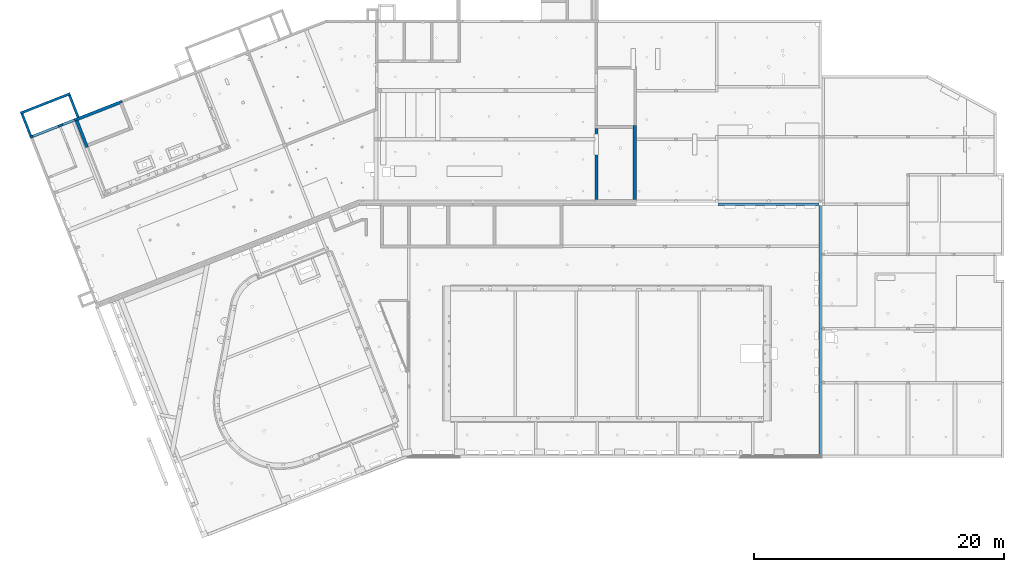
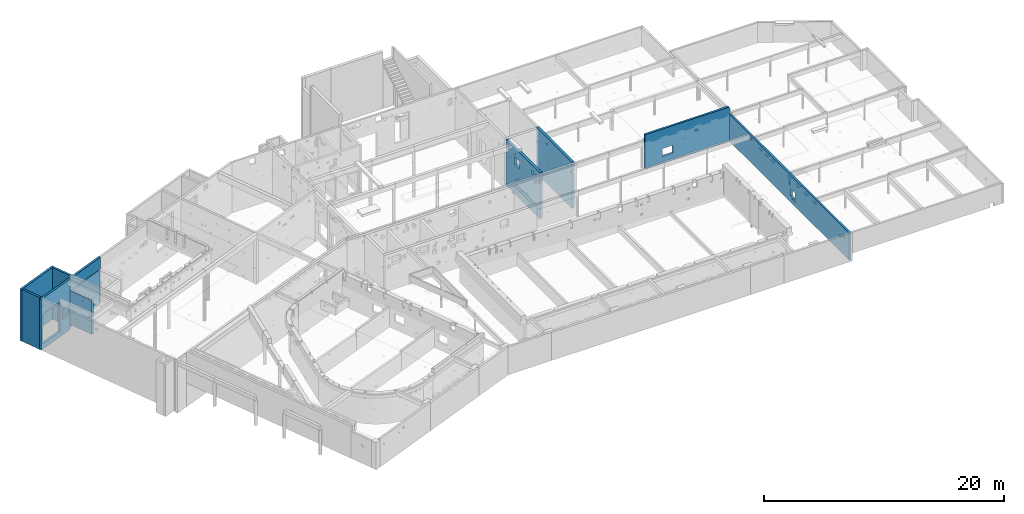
# One storey, part 22 of 28: 10 walls, 22 openings.
"""IFC2X3 building model written with IfcOpenShell, lengths in metres."""

from ifc_helpers import new_model, entity, si_unit, converted_unit, direction, frame, frame_2d, origin, origin_with_axes, place, context, subcontext, project, spatial, polyline, rectangle, outline, extrude, clip, bounded_halfspace, material, layer, layer_set, layer_usage, element, save


model = new_model("IFC2X3")

# Units and contexts
model_context = context("Model", 3, precision=1e-05, world=origin(), true_north=direction((-0.407059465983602, -0.913401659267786)))
body_context = subcontext(model_context, "Body", "Model", "MODEL_VIEW")
ifc_project = project(units=[si_unit("LENGTHUNIT", "METRE"), si_unit("AREAUNIT", "SQUARE_METRE"), si_unit("VOLUMEUNIT", "CUBIC_METRE"), si_unit("MASSUNIT", "GRAM", prefix="KILO"), converted_unit("PLANEANGLEUNIT", "DEGREE", entity("IfcPlaneAngleMeasure", 0.0174532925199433), si_unit("PLANEANGLEUNIT", "RADIAN"), dimensions=[0, 0, 0, 0, 0, 0, 0])], contexts=[model_context])

# Site, buildings, storey
site_placement = place(None, origin())
site = spatial("IfcSite", under=ifc_project, at=site_placement, Name="Site", CompositionType="ELEMENT")
building_1_placement = place(site_placement, origin())
building_1 = spatial("IfcBuilding", under=site, at=building_1_placement, Name="Site", CompositionType="COMPLEX")
building_2_placement = place(building_1_placement, origin())
building_2 = spatial("IfcBuilding", under=building_1, at=building_2_placement, Name="Bâtiments", CompositionType="ELEMENT")
storey_placement = place(building_2_placement, frame((0.0, 0.0, -5.3)))
storey = spatial("IfcBuildingStorey", under=building_2, at=storey_placement, Name="SOUS-SOL", CompositionType="ELEMENT", Elevation=-5.3)

# Walls
ifc_material_1 = material(Name="Béton")
ifc_layer_1 = layer(ifc_material_1, 0.0500000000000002)
ifc_material_2 = material(Name="Béton")
ifc_layer_2 = layer(ifc_material_2, 0.2)
ifc_layer_set_1 = layer_set([ifc_layer_1, ifc_layer_2])
ifc_layer_usage_1 = layer_usage(ifc_layer_set_1, "AXIS2", "POSITIVE", -0.25)
wall_1_placement = place(storey_placement, frame((3.87112172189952, 1.35771621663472, 0.5), z_axis=(0.0, 0.0, 1.0), x_axis=(0.930910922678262, 0.365246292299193, 0.0)))
element("IfcWallStandardCase", 1, at=wall_1_placement, inside=storey, material=ifc_layer_usage_1, context=body_context, shape_type="Clipping", body=[
    clip(extrude(outline(polyline([(0.318002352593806, -0.0766809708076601), (3.89567794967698, -0.0766809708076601), (3.89567794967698, -0.0266809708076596), (4.14567794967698, -0.0266809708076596), (4.14567794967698, 0.173319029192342), (0.0680023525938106, 0.173319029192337), (0.06800235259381, -0.026680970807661), (0.318002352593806, -0.0266809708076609), (0.318002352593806, -0.0766809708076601)])), frame((-0.318002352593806, 0.0766809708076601, 0.0), z_axis=(0.0, 0.0, 1.0), x_axis=(1.0, 0.0, 0.0)), (0.0, 0.0, 1.0), 4.66), bounded_halfspace(frame((1.78883779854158, 0.0250000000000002, 3.46), z_axis=(0.0, 0.0, -1.0), x_axis=(1.0, -5.55111512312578e-17, 0.0)), True, origin_with_axes(), polyline([(8.30473919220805e-17, 2.11664637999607e-16), (3.57767559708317, 0.0), (3.57767559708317, 0.0500000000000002), (-5.71986902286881e-16, 0.0499999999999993), (8.30473919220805e-17, 2.11664637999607e-16)]))),
])
ifc_material_3 = material(Name="Béton")
ifc_layer_3 = layer(ifc_material_3, 0.249999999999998)
ifc_layer_set_2 = layer_set([ifc_layer_3])
ifc_layer_usage_2 = layer_usage(ifc_layer_set_2, "AXIS2", "POSITIVE", 0.0)
wall_2_placement = place(storey_placement, frame((3.62013167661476, 1.31295018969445, 0.5), z_axis=(0.0, 0.0, 1.0), x_axis=(0.365246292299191, -0.930910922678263, 0.0)))
element("IfcWallStandardCase", 2, at=wall_2_placement, inside=storey, material=ifc_layer_usage_2, context=body_context, shape_type="Clipping", body=[
    clip(extrude(rectangle(XDim=2.30036738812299, YDim=0.249999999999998, at=frame_2d((1.1501836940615, 0.124999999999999), x_axis=(1.0, 0.0))), origin_with_axes(), (0.0, 0.0, 1.0), 3.46), bounded_halfspace(frame((1.15018369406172, 0.149913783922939, 3.22), z_axis=(0.0, 0.0, -1.0), x_axis=(-1.0, -2.38697950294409e-15, 0.0)), True, origin_with_axes(), polyline([(2.30036738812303, 0.249745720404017), (7.0983219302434e-13, 0.249745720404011), (1.42328815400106e-13, 0.0500818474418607), (2.300367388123, 0.0500818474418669), (2.30036738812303, 0.249745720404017)]))),
])
ifc_material_4 = material(Name="Béton")
ifc_layer_4 = layer(ifc_material_4, 0.199999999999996)
ifc_layer_set_3 = layer_set([ifc_layer_4])
ifc_layer_usage_3 = layer_usage(ifc_layer_set_3, "AXIS2", "POSITIVE", 0.0)
wall_3_placement = place(storey_placement, frame((-0.724868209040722, 1.84718629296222, 0.0), z_axis=(0.0, 0.0, 1.0), x_axis=(0.365300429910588, -0.930889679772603, 0.0)))
element("IfcWallStandardCase", 3, at=wall_3_placement, inside=storey, material=ifc_layer_usage_3, context=body_context, shape_type="SweptSolid", body=[
    extrude(outline(polyline([(-1.63286918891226, 0.640771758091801), (0.251452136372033, 0.640771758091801), (0.251463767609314, 0.840771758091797), (-1.63285907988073, 0.840771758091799), (-1.63286918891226, 0.640771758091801)])), frame((1.63286918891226, -0.640771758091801, 0.0), z_axis=(0.0, 0.0, 1.0), x_axis=(1.0, 0.0, 0.0)), (0.0, 0.0, 1.0), 5.28),
])

# Wall, openings
ifc_material_5 = material(Name="Béton")
ifc_layer_5 = layer(ifc_material_5, 0.199999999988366)
ifc_layer_set_4 = layer_set([ifc_layer_5])
ifc_layer_usage_4 = layer_usage(ifc_layer_set_4, "AXIS2", "POSITIVE", 0.0)
wall_4_placement = place(storey_placement, frame((3.54708241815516, 1.49913237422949, 0.0), z_axis=(0.0, 0.0, 1.0), x_axis=(-0.930910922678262, -0.365246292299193, 0.0)))
wall_4 = element("IfcWallStandardCase", 4, at=wall_4_placement, inside=storey, material=ifc_layer_usage_4, context=body_context, shape_type="SweptSolid", body=[
    extrude(outline(polyline([(-3.91757131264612, -0.173315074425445), (-0.0680008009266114, -0.173315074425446), (-0.0680124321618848, 0.0266849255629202), (-0.268001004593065, 0.0266849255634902), (-3.91757131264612, 0.0266849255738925), (-3.91757131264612, -0.173315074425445)])), frame((3.91757131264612, 0.173315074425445, 0.0), z_axis=(0.0, 0.0, 1.0), x_axis=(1.0, 0.0, 0.0)), (0.0, 0.0, 1.0), 5.16),
])
opening_1_placement = place(wall_4_placement, frame((3.60956827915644, 0.199999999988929, 0.55), z_axis=(-2.85353962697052e-12, -1.0, 0.0), x_axis=(0.0, 0.0, 1.0)))
element("IfcOpeningElement", 5, at=opening_1_placement, cuts=wall_4, Name="CVC-001", ObjectType="Opening", context=body_context, shape_type="SweptSolid", body=[
    extrude(outline(polyline([(0.0, 2.22), (3.02, 2.22), (3.02, 0.0), (0.0, 0.0), (0.0, 2.22)])), origin_with_axes(), (0.0, 0.0, 1.0), 0.199999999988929),
])
opening_2_placement = place(wall_4_placement, frame((1.02, 0.199999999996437, 1.59), z_axis=(-2.85183432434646e-12, -1.0, 0.0), x_axis=(0.0, 0.0, 1.0)))
element("IfcOpeningElement", 6, at=opening_2_placement, cuts=wall_4, Name="CVC-002", ObjectType="Opening", context=body_context, shape_type="SweptSolid", body=[
    extrude(outline(polyline([(0.0, 1.02), (1.02, 1.02), (1.02, 0.0), (0.0, 0.0), (0.0, 1.02)])), origin_with_axes(), (0.0, 0.0, 1.0), 0.199999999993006),
])

# Walls
ifc_material_6 = material(Name="Béton")
ifc_layer_6 = layer(ifc_material_6, 0.2)
ifc_layer_set_5 = layer_set([ifc_layer_6])
ifc_layer_usage_5 = layer_usage(ifc_layer_set_5, "AXIS2", "POSITIVE", 0.0)
wall_5_placement = place(storey_placement, frame((3.18691385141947, 3.59686656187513, 0.0), z_axis=(0.0, 0.0, 1.0), x_axis=(-0.930908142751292, -0.365253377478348, 0.0)))
element("IfcWallStandardCase", 7, at=wall_5_placement, inside=storey, material=ifc_layer_usage_5, context=body_context, shape_type="SweptSolid", body=[
    extrude(outline(polyline([(-4.34859862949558, -0.173314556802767), (-0.0680021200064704, -0.173314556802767), (-0.0680122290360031, 0.0266854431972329), (-4.34859580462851, 0.0266854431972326), (-4.34859862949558, -0.173314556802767)])), frame((4.34859862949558, 0.173314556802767, 0.0), z_axis=(0.0, 0.0, 1.0), x_axis=(1.0, 0.0, 0.0)), (0.0, 0.0, 1.0), 5.28),
])
ifc_material_7 = material(Name="Béton")
ifc_layer_7 = layer(ifc_material_7, 0.199999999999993)
ifc_layer_set_6 = layer_set([ifc_layer_7])
ifc_layer_usage_6 = layer_usage(ifc_layer_set_6, "AXIS2", "POSITIVE", 0.0)
wall_6_placement = place(storey_placement, frame((3.9482037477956, 1.65651378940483, 0.0), z_axis=(0.0, 0.0, 1.0), x_axis=(-0.365240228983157, 0.930913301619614, 0.0)))
element("IfcWallStandardCase", 8, at=wall_6_placement, inside=storey, material=ifc_layer_usage_6, context=body_context, shape_type="SweptSolid", body=[
    extrude(outline(polyline([(-0.251372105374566, -0.840692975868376), (1.63298179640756, -0.840692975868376), (1.6329789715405, -0.640692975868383), (-0.251373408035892, -0.640692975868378), (-0.251372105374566, -0.840692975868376)])), frame((0.251372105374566, 0.840692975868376, 0.0), z_axis=(0.0, 0.0, 1.0), x_axis=(1.0, 0.0, 0.0)), (0.0, 0.0, 1.0), 5.28),
])

# Wall, openings
ifc_material_8 = material(Name="Béton")
wall_7_placement = place(storey_placement, frame((63.2133688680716, -5.23895155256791, 2.4), z_axis=(0.0, 0.0, 1.0), x_axis=(-4.1580648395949e-06, -0.999999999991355, 0.0)))
wall_7 = element("IfcWall", 9, at=wall_7_placement, inside=storey, material=ifc_material_8, context=body_context, shape_type="SweptSolid", body=[
    extrude(outline(polyline([(-20.005971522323, -3.69494712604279e-15), (0.0, 0.0), (-8.3161296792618e-07, 0.200000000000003), (-20.0059715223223, 0.200000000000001), (-20.005971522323, -3.69494712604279e-15)])), frame((20.2059704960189, 0.0, 0.0), z_axis=(0.0, 0.0, 1.0), x_axis=(1.0, 0.0, 0.0)), (0.0, 0.0, 1.0), 2.76),
    extrude(outline(polyline([(-4.16853254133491e-10, -1.73330285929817e-15), (-2.73763182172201e-10, 6.58390844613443e-05), (-0.199989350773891, -1.33833417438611e-15), (-4.16853254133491e-10, -1.73330285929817e-15)])), frame((0.199989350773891, 1.33833417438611e-15, 0.0), z_axis=(0.0, 0.0, 1.0), x_axis=(1.0, 0.0, 0.0)), (0.0, 0.0, 1.0), 2.76),
])
opening_3_placement = place(wall_7_placement, frame((11.2628809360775, 0.200000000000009, 0.44), z_axis=(0.0, 0.0, 1.0), x_axis=(-1.0, -6.20540271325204e-15, 0.0)))
element("IfcOpeningElement", 10, at=opening_3_placement, cuts=wall_7, Name="CVC-001", ObjectType="Opening", context=body_context, shape_type="SweptSolid", body=[
    extrude(outline(polyline([(3.71841339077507e-07, 3.6373814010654e-15), (0.600000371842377, 0.0), (0.600000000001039, 0.200000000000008), (1.2138496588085e-15, 0.200000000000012), (3.71841339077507e-07, 3.6373814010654e-15)])), origin_with_axes(), (0.0, 0.0, 1.0), 0.15),
])
opening_4_placement = place(wall_7_placement, frame((11.1584062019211, 0.199997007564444, 0.64), z_axis=(0.0, -1.0, 0.0), x_axis=(0.0, 0.0, 1.0)))
element("IfcOpeningElement", 11, at=opening_4_placement, cuts=wall_7, Name="CVC-002", ObjectType="Opening", context=body_context, shape_type="SweptSolid", body=[
    extrude(outline(polyline([(0.0, 0.730000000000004), (0.73, 0.730000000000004), (0.73, 0.0), (0.0, 0.0), (0.0, 0.730000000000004)])), origin_with_axes(), (0.0, 0.0, 1.0), 0.200000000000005),
])
opening_5_placement = place(wall_7_placement, frame((10.3243862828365, 0.200001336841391, 1.67), z_axis=(0.0, -1.0, 0.0), x_axis=(0.0, 0.0, 1.0)))
element("IfcOpeningElement", 12, at=opening_5_placement, cuts=wall_7, Name="PB-104", ObjectType="Opening", context=body_context, shape_type="SweptSolid", body=[
    extrude(outline(polyline([(0.0, 0.15), (0.4, 0.15), (0.4, 0.0), (0.0, 0.0), (0.0, 0.15)])), origin_with_axes(), (0.0, 0.0, 1.0), 0.200000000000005),
])
opening_6_placement = place(wall_7_placement, frame((18.8305266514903, 0.200000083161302, 1.5), z_axis=(0.0, -1.0, 0.0), x_axis=(0.0, 0.0, 1.0)))
element("IfcOpeningElement", 13, at=opening_6_placement, cuts=wall_7, Name="PB-114", ObjectType="Opening", context=body_context, shape_type="SweptSolid", body=[
    extrude(outline(polyline([(0.0, 0.2), (0.2, 0.2), (0.2, 0.0), (0.0, 0.0), (0.0, 0.2)])), origin_with_axes(), (0.0, 0.0, 1.0), 0.200000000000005),
])
opening_7_placement = place(wall_7_placement, frame((19.1155884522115, 2.54445076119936e-15, 1.76), z_axis=(0.0, 1.0, 0.0), x_axis=(0.0, 0.0, 1.0)))
element("IfcOpeningElement", 14, at=opening_7_placement, cuts=wall_7, Name="PB-116", ObjectType="Opening", context=body_context, shape_type="SweptSolid", body=[
    extrude(outline(polyline([(0.0, 0.300000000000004), (0.3, 0.300000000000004), (0.3, 0.0), (0.0, 0.0), (0.0, 0.300000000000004)])), origin_with_axes(), (0.0, 0.0, 1.0), 0.199999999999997),
])
opening_8_placement = place(wall_7_placement, frame((4.01802145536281, 0.199999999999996, 2.38), z_axis=(0.0, -1.0, 0.0), x_axis=(0.0, 0.0, 1.0)))
element("IfcOpeningElement", 15, at=opening_8_placement, cuts=wall_7, Name="TE-102", ObjectType="Opening", context=body_context, shape_type="SweptSolid", body=[
    extrude(outline(polyline([(0.0, 0.2), (0.2, 0.2), (0.2, 0.0), (0.0, 0.0), (0.0, 0.2)])), origin_with_axes(), (0.0, 0.0, 1.0), 0.200000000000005),
])

ifc_material_9 = material(Name="Béton")
ifc_layer_8 = layer(ifc_material_9, 0.25)
ifc_layer_set_7 = layer_set([ifc_layer_8])
ifc_layer_usage_7 = layer_usage(ifc_layer_set_7, "AXIS2", "POSITIVE", -0.25)
wall_8_placement = place(storey_placement, frame((45.4926440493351, -4.9689308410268, 0.5), z_axis=(0.0, 0.0, 1.0), x_axis=(0.0, 1.0, 0.0)))
wall_8 = element("IfcWallStandardCase", 16, at=wall_8_placement, inside=storey, material=ifc_layer_usage_7, context=body_context, shape_type="SweptSolid", body=[
    extrude(outline(polyline([(0.0, -0.25), (5.67274175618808, -0.25), (5.67274175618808, 0.0), (5.3924186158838e-07, 0.0), (0.0, -0.25)])), frame((0.0, 0.25, 0.0), z_axis=(0.0, 0.0, 1.0), x_axis=(1.0, 0.0, 0.0)), (0.0, 0.0, 1.0), 4.68),
])
opening_9_placement = place(wall_8_placement, frame((4.04276549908, 0.0, 4.02), z_axis=(0.0, 1.0, 0.0), x_axis=(0.0, 0.0, 1.0)))
element("IfcOpeningElement", 17, at=opening_9_placement, cuts=wall_8, Name="PB-060", ObjectType="Opening", context=body_context, shape_type="SweptSolid", body=[
    extrude(outline(polyline([(0.0, 0.15), (0.15, 0.15), (0.15, 0.0), (0.0, 0.0), (0.0, 0.15)])), origin_with_axes(), (0.0, 0.0, 1.0), 0.25),
])
opening_10_placement = place(wall_8_placement, frame((0.599999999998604, 0.0, 3.97), z_axis=(0.0, 1.0, 0.0), x_axis=(0.0, 0.0, 1.0)))
element("IfcOpeningElement", 18, at=opening_10_placement, cuts=wall_8, Name="PB-080", ObjectType="Opening", context=body_context, shape_type="SweptSolid", body=[
    extrude(outline(polyline([(0.0, 0.15), (0.15, 0.15), (0.15, 0.0), (0.0, 0.0), (0.0, 0.15)])), origin_with_axes(), (0.0, 0.0, 1.0), 0.25),
])
opening_11_placement = place(wall_8_placement, frame((0.0, 0.0, 3.56)))
element("IfcOpeningElement", 19, at=opening_11_placement, cuts=wall_8, Name="PB-085", ObjectType="Opening", context=body_context, shape_type="SweptSolid", body=[
    extrude(outline(polyline([(0.0, 0.0), (0.2, 0.0), (0.2, 0.25), (5.3924186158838e-07, 0.25), (0.0, 0.0)])), origin_with_axes(), (0.0, 0.0, 1.0), 0.2),
])
opening_12_placement = place(wall_8_placement, frame((4.97066683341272, -2.98262675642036e-08, 4.08), z_axis=(0.0, 1.0, 0.0), x_axis=(0.0, 0.0, 1.0)))
element("IfcOpeningElement", 20, at=opening_12_placement, cuts=wall_8, Name="TE-080", ObjectType="Opening", context=body_context, shape_type="SweptSolid", body=[
    extrude(outline(polyline([(0.0, 0.35), (0.35, 0.35), (0.35, 0.0), (0.0, 0.0), (0.0, 0.35)])), origin_with_axes(), (0.0, 0.0, 1.0), 0.25),
])
opening_13_placement = place(wall_8_placement, frame((1.05190073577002, 0.0, 3.8), z_axis=(0.0, 1.0, 0.0), x_axis=(0.0, 0.0, 1.0)))
element("IfcOpeningElement", 21, at=opening_13_placement, cuts=wall_8, Name="CVC-056", ObjectType="Opening", context=body_context, shape_type="SweptSolid", body=[
    extrude(outline(polyline([(0.199999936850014, 0.0), (0.179094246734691, 0.00109562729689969), (0.158417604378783, 0.00437049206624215), (0.138196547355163, 0.00978871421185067), (0.11865262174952, 0.0172909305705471), (0.0999999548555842, 0.0267949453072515), (0.0824429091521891, 0.0381966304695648), (0.0661738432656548, 0.0513710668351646), (0.0513710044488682, 0.0661739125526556), (0.0381965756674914, 0.0824429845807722), (0.0267948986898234, 0.100000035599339), (0.0172908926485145, 0.1186527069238), (0.0097886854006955, 0.138196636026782), (0.0043704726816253, 0.158417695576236), (0.00109561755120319, 0.179094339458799), (0.0, 0.200000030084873), (0.00109562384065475, 0.220905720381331), (0.00437048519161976, 0.241582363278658), (0.00978870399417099, 0.261803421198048), (0.0172909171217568, 0.281347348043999), (0.0267949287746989, 0.300000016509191), (0.0381966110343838, 0.317557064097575), (0.0513710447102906, 0.333826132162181), (0.0661738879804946, 0.348628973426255), (0.0824429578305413, 0.361803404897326), (0.100000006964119, 0.373205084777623), (0.118652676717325, 0.382709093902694), (0.13819660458, 0.390211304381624), (0.158417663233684, 0.395629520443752), (0.17909430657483, 0.398904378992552), (0.199999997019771, 0.4), (0.220905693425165, 0.398904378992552), (0.241582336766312, 0.395629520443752), (0.261803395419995, 0.390211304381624), (0.281347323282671, 0.382709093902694), (0.299999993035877, 0.373205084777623), (0.317557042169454, 0.361803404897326), (0.333826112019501, 0.348628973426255), (0.348628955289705, 0.333826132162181), (0.361803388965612, 0.317557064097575), (0.373205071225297, 0.300000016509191), (0.382709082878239, 0.281347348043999), (0.390211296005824, 0.261803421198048), (0.395629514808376, 0.241582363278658), (0.398904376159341, 0.220905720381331), (0.399999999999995, 0.200000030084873), (0.398904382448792, 0.179094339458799), (0.39562952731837, 0.158417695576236), (0.3902113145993, 0.138196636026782), (0.382709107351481, 0.1186527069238), (0.373205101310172, 0.100000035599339), (0.361803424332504, 0.0824429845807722), (0.348628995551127, 0.0661739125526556), (0.333826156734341, 0.0513710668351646), (0.317557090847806, 0.0381966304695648), (0.300000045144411, 0.0267949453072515), (0.281347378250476, 0.0172909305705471), (0.261803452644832, 0.00978871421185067), (0.241582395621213, 0.00437049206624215), (0.220905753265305, 0.00109562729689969), (0.199999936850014, 0.0)])), origin_with_axes(), (0.0, 0.0, 1.0), 0.25),
])
opening_14_placement = place(wall_8_placement, frame((3.42068589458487, 0.0, 3.0), z_axis=(0.0, 1.0, 0.0), x_axis=(0.0, 0.0, 1.0)))
element("IfcOpeningElement", 22, at=opening_14_placement, cuts=wall_8, Name="TE-006", ObjectType="Opening", context=body_context, shape_type="SweptSolid", body=[
    extrude(outline(polyline([(0.0, 0.8), (0.8, 0.8), (0.8, 0.0), (0.0, 0.0), (0.0, 0.8)])), origin_with_axes(), (0.0, 0.0, 1.0), 0.25),
])
opening_15_placement = place(wall_8_placement, frame((2.94329424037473, 0.0, 0.860000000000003), z_axis=(0.0, 1.0, 0.0), x_axis=(0.0, 0.0, 1.0)))
element("IfcOpeningElement", 23, at=opening_15_placement, cuts=wall_8, Name="Incorpo TE-016", ObjectType="Opening", context=body_context, shape_type="SweptSolid", body=[
    extrude(outline(polyline([(0.09999995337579, 0.0), (0.0895471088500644, 0.000547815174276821), (0.079208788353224, 0.0021852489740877), (0.0690982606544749, 0.00489436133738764), (0.0593262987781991, 0.00864547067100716), (0.0499999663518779, 0.0133974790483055), (0.0412214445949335, 0.0190983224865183), (0.0330869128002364, 0.0256855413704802), (0.0256854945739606, 0.0330869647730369), (0.0190982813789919, 0.0412215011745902), (0.0133974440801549, 0.0500000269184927), (0.00864544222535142, 0.0593263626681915), (0.00489433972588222, 0.0690983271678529), (0.00218523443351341, 0.0792088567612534), (0.00054780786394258, 0.0895471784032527), (0.0, 0.100000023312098), (0.000547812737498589, 0.110452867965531), (0.00218524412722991, 0.120791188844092), (0.0048943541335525, 0.130901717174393), (0.00864546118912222, 0.140673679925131), (0.0133974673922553, 0.150000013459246), (0.01909830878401, 0.158778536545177), (0.0256855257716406, 0.166913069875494), (0.0330869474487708, 0.174314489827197), (0.0412214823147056, 0.180901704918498), (0.0500000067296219, 0.186602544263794), (0.0593263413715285, 0.191354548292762), (0.0690983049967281, 0.195105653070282), (0.079208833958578, 0.197814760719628), (0.0895471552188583, 0.199452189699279), (0.0999999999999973, 0.2), (0.110452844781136, 0.199452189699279), (0.120791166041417, 0.197814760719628), (0.130901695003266, 0.195105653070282), (0.140673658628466, 0.191354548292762), (0.149999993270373, 0.186602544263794), (0.158778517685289, 0.180901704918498), (0.166913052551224, 0.174314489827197), (0.174314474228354, 0.166913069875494), (0.180901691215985, 0.158778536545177), (0.186602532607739, 0.150000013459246), (0.191354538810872, 0.140673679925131), (0.195105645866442, 0.130901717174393), (0.197814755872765, 0.120791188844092), (0.199452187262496, 0.110452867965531), (0.199999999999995, 0.100000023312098), (0.199452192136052, 0.0895471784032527), (0.197814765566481, 0.0792088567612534), (0.195105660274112, 0.0690983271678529), (0.191354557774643, 0.0593263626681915), (0.18660255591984, 0.0500000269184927), (0.180901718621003, 0.0412215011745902), (0.174314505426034, 0.0330869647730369), (0.166913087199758, 0.0256855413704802), (0.158778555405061, 0.0190983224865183), (0.150000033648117, 0.0133974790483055), (0.140673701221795, 0.00864547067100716), (0.13090173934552, 0.00489436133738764), (0.120791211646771, 0.0021852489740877), (0.11045289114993, 0.000547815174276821), (0.09999995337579, 0.0)])), origin_with_axes(), (0.0, 0.0, 1.0), 0.25),
])
opening_16_placement = place(wall_8_placement, frame((2.64585447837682, 0.0, 0.340000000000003), z_axis=(0.0, 1.0, 0.0), x_axis=(0.0, 0.0, 1.0)))
element("IfcOpeningElement", 24, at=opening_16_placement, cuts=wall_8, Name="Incorpo TE-017", ObjectType="Opening", context=body_context, shape_type="SweptSolid", body=[
    extrude(outline(polyline([(0.0159999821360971, 0.0), (0.0126733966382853, 0.000349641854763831), (0.00949219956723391, 0.00138327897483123), (0.00659542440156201, 0.00305573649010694), (0.004109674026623, 0.00529392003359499), (0.00214358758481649, 0.00800001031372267), (0.000783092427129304, 0.0110557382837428), (8.76486782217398e-05, 0.0143275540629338), (8.7650545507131e-05, 0.0176724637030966), (0.000783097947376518, 0.0209442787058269), (0.00214359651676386, 0.0240000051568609), (0.00410968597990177, 0.026706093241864), (0.00659543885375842, 0.0289442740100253), (0.00949221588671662, 0.0306167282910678), (0.0126734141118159, 0.0316503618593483), (0.0159999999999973, 0.032), (0.0193265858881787, 0.0316503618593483), (0.0225077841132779, 0.0306167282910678), (0.0254045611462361, 0.0289442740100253), (0.0278903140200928, 0.026706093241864), (0.0298564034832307, 0.0240000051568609), (0.031216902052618, 0.0209442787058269), (0.0319123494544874, 0.0176724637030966), (0.0319123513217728, 0.0143275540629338), (0.0312169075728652, 0.0110557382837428), (0.0298564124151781, 0.00800001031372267), (0.0278903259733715, 0.00529392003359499), (0.0254045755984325, 0.00305573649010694), (0.0225078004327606, 0.00138327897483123), (0.0193266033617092, 0.000349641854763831), (0.0159999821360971, 0.0)])), origin_with_axes(), (0.0, 0.0, 1.0), 0.25),
])
opening_17_placement = place(wall_8_placement, frame((3.33479098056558, -2.38125000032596e-06, -0.249999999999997), z_axis=(0.0, 1.0, 0.0), x_axis=(0.0, 0.0, 1.0)))
element("IfcOpeningElement", 25, at=opening_17_placement, cuts=wall_8, Name="Incorpo TE-015", ObjectType="Opening", context=body_context, shape_type="SweptSolid", body=[
    extrude(outline(polyline([(0.0314999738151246, 0.0), (0.028207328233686, 0.00017256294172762), (0.0249507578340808, 0.000688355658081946), (0.0217659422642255, 0.00154172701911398), (0.0186877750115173, 0.00272332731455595), (0.0157499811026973, 0.00422021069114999), (0.0129847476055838, 0.00601597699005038), (0.010422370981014, 0.00809095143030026), (0.00809092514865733, 0.0104224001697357), (0.00601595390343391, 0.0129847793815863), (0.00422019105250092, 0.0157500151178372), (0.00272331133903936, 0.018687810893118), (0.00154171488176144, 0.0217659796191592), (0.000688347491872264, 0.0249507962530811), (0.000172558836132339, 0.0282073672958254), (0.0, 0.0315000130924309), (0.000172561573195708, 0.0347926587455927), (0.000688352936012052, 0.0380492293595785), (0.00154172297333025, 0.0412340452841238), (0.00272332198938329, 0.0443122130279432), (0.00422020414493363, 0.0472500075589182), (0.00601596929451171, 0.0500152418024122), (0.00809094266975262, 0.0525776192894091), (0.0104223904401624, 0.0549090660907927), (0.0129847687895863, 0.0569840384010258), (0.015750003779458, 0.0587798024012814), (0.0186877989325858, 0.0602766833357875), (0.0217659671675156, 0.0614582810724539), (0.0249507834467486, 0.0623116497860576), (0.0282073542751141, 0.062827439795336), (0.0314999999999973, 0.063), (0.0347926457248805, 0.062827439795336), (0.038049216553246, 0.0623116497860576), (0.041234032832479, 0.0614582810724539), (0.0443122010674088, 0.0602766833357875), (0.0472499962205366, 0.0587798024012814), (0.0500152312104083, 0.0569840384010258), (0.0525776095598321, 0.0549090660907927), (0.0549090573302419, 0.0525776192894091), (0.0569840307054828, 0.0500152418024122), (0.0587797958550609, 0.0472500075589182), (0.0602766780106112, 0.0443122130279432), (0.0614582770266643, 0.0412340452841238), (0.0623116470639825, 0.0380492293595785), (0.0628274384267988, 0.0347926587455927), (0.0629999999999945, 0.0315000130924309), (0.0628274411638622, 0.0282073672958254), (0.0623116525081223, 0.0249507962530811), (0.0614582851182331, 0.0217659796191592), (0.0602766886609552, 0.018687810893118), (0.0587798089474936, 0.0157500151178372), (0.0569840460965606, 0.0129847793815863), (0.0549090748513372, 0.0104224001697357), (0.0525776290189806, 0.00809095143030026), (0.0500152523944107, 0.00601597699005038), (0.0472500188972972, 0.00422021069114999), (0.0443122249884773, 0.00272332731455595), (0.0412340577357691, 0.00154172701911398), (0.0380492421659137, 0.000688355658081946), (0.0347926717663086, 0.00017256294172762), (0.0314999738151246, 0.0)])), origin_with_axes(), (0.0, 0.0, 1.0), 0.25),
])

ifc_material_10 = material(Name="Béton")
ifc_layer_9 = layer(ifc_material_10, 0.25)
ifc_layer_set_8 = layer_set([ifc_layer_9])
ifc_layer_usage_8 = layer_usage(ifc_layer_set_8, "AXIS2", "POSITIVE", -0.1)
wall_9_placement = place(storey_placement, frame((48.314696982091, 0.953810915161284, 0.5), z_axis=(0.0, 0.0, 1.0), x_axis=(0.0, -1.0, 0.0)))
wall_9 = element("IfcWallStandardCase", 26, at=wall_9_placement, inside=storey, material=ifc_layer_usage_8, context=body_context, shape_type="SweptSolid", body=[
    extrude(outline(polyline([(-5.92274838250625, 0.0), (-5.3924186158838e-07, 0.0), (0.0, 0.25), (-5.92274838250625, 0.25), (-5.92274838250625, 0.0)])), frame((5.92274838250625, 0.0, 0.0), z_axis=(0.0, 0.0, 1.0), x_axis=(1.0, 0.0, 0.0)), (0.0, 0.0, 1.0), 4.68),
])
opening_18_placement = place(wall_9_placement, frame((5.92274838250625, 0.25, 3.52), z_axis=(0.0, 0.0, 1.0), x_axis=(-1.0, 0.0, 0.0)))
element("IfcOpeningElement", 27, at=opening_18_placement, cuts=wall_9, Name="PB-089", ObjectType="Opening", context=body_context, shape_type="SweptSolid", body=[
    extrude(outline(polyline([(0.0, 0.0), (0.200000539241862, 0.0), (0.200000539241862, 0.25), (5.3924186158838e-07, 0.25), (0.0, 0.0)])), origin_with_axes(), (0.0, 0.0, 1.0), 0.2),
])
opening_19_placement = place(wall_9_placement, frame((5.32452238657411, 0.25, 3.93), z_axis=(0.0, -1.0, 0.0), x_axis=(0.0, 0.0, 1.0)))
element("IfcOpeningElement", 28, at=opening_19_placement, cuts=wall_9, Name="PB-082", ObjectType="Opening", context=body_context, shape_type="SweptSolid", body=[
    extrude(outline(polyline([(0.0, 0.15), (0.15, 0.15), (0.15, 0.0), (0.0, 0.0), (0.0, 0.15)])), origin_with_axes(), (0.0, 0.0, 1.0), 0.25),
])
opening_20_placement = place(wall_9_placement, frame((1.87997625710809, 0.25, 3.96), z_axis=(0.0, -1.0, 0.0), x_axis=(0.0, 0.0, 1.0)))
element("IfcOpeningElement", 29, at=opening_20_placement, cuts=wall_9, Name="PB-064", ObjectType="Opening", context=body_context, shape_type="SweptSolid", body=[
    extrude(outline(polyline([(0.0, 0.15), (0.15, 0.15), (0.15, 0.0), (0.0, 0.0), (0.0, 0.15)])), origin_with_axes(), (0.0, 0.0, 1.0), 0.25),
])

ifc_material_11 = material(Name="Béton")
ifc_layer_10 = layer(ifc_material_11, 0.199972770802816)
ifc_layer_set_9 = layer_set([ifc_layer_10])
ifc_layer_usage_9 = layer_usage(ifc_layer_set_9, "AXIS2", "POSITIVE", -0.200000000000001)
wall_10_placement = place(storey_placement, frame((63.2133688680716, -5.23895156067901, 2.4), z_axis=(0.0, 0.0, 1.0), x_axis=(-0.999999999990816, 4.28575961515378e-06, 0.0)))
wall_10 = element("IfcWallStandardCase", 30, at=wall_10_placement, inside=storey, material=ifc_layer_usage_9, context=body_context, shape_type="SweptSolid", body=[
    extrude(outline(polyline([(-8.1008874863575, -3.47184564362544e-05), (-8.1008874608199, -0.20002406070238), (8.57255041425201e-07, -0.20002406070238), (1.26189157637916e-10, -5.12898995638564e-05), (-8.1008874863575, -3.47184564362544e-05)])), frame((8.1008874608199, 0.20002406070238, 0.0), z_axis=(0.0, 0.0, 1.0), x_axis=(1.0, 0.0, 0.0)), (0.0, 0.0, 1.0), 3.5),
])
opening_21_placement = place(wall_10_placement, frame((2.99895182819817, -6.51474321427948e-07, 2.18), z_axis=(0.0, 0.0, 1.0), x_axis=(0.999999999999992, 1.27691577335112e-07, 0.0)))
element("IfcOpeningElement", 31, at=opening_21_placement, cuts=wall_10, Name="PB-96", ObjectType="Opening", context=body_context, shape_type="SweptSolid", body=[
    extrude(outline(polyline([(0.0, 0.0), (0.300000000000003, 0.0), (0.300000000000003, 0.199983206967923), (2.69374789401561e-15, 0.19998385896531), (0.0, 0.0)])), origin_with_axes(), (0.0, 0.0, 1.0), 0.15),
])
opening_22_placement = place(wall_10_placement, frame((5.41536122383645, -3.42919191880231e-07, 0.7), z_axis=(0.0, 0.0, 1.0), x_axis=(0.999999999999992, 1.27691577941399e-07, 0.0)))
element("IfcOpeningElement", 32, at=opening_22_placement, cuts=wall_10, Name="Accès VS", ObjectType="Opening", context=body_context, shape_type="SweptSolid", body=[
    extrude(outline(polyline([(0.0, 0.0), (1.0, 0.0), (0.999999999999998, 0.199976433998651), (4.35109066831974e-15, 0.199978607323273), (0.0, 0.0)])), origin_with_axes(), (0.0, 0.0, 1.0), 0.8),
])

save(model, "model.ifc")
